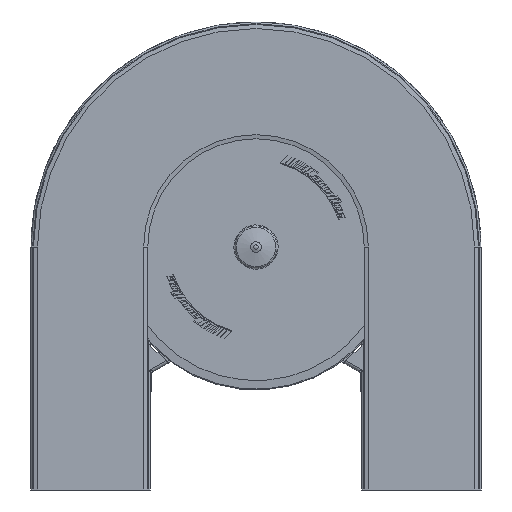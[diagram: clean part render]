
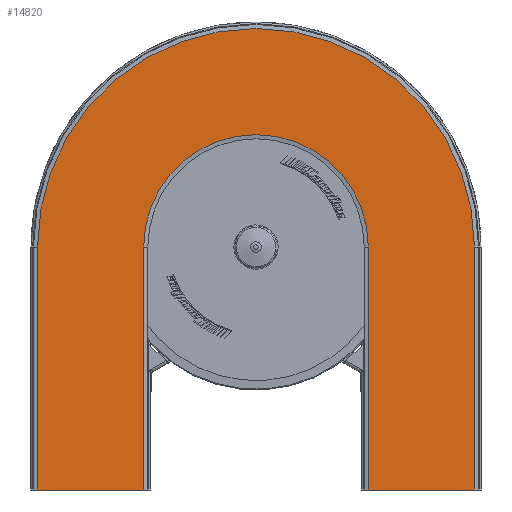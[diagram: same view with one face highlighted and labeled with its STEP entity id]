
A CAD part, front view. The second image highlights one B-rep face of the part: STEP entity #14820.
In plain terms, the highlighted planar face has unit normal (0, -1, 0).
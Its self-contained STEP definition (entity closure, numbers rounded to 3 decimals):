
#1121=PLANE('',#16205);
#2033=FACE_OUTER_BOUND('',#2983,.T.);
#2983=EDGE_LOOP('',(#13047,#13048,#13049,#13050,#13051,#13052,#13053,#13054));
#4127=LINE('',#30756,#5459);
#4131=LINE('',#30763,#5463);
#4142=LINE('',#30796,#5474);
#4143=LINE('',#30798,#5475);
#4144=LINE('',#30799,#5476);
#4145=LINE('',#30800,#5477);
#5459=VECTOR('',#19410,10.);
#5463=VECTOR('',#19416,10.);
#5474=VECTOR('',#19447,10.);
#5475=VECTOR('',#19448,10.);
#5476=VECTOR('',#19449,10.);
#5477=VECTOR('',#19450,10.);
#6227=CIRCLE('',#16204,137.5);
#6228=CIRCLE('',#16206,267.5);
#7348=VERTEX_POINT('',#30753);
#7349=VERTEX_POINT('',#30755);
#7351=VERTEX_POINT('',#30761);
#7360=VERTEX_POINT('',#30787);
#7361=VERTEX_POINT('',#30789);
#7362=VERTEX_POINT('',#30793);
#7363=VERTEX_POINT('',#30795);
#7364=VERTEX_POINT('',#30797);
#9297=EDGE_CURVE('',#7349,#7348,#4127,.T.);
#9301=EDGE_CURVE('',#7351,#7348,#4131,.T.);
#9314=EDGE_CURVE('',#7361,#7360,#6227,.T.);
#9316=EDGE_CURVE('',#7362,#7351,#6228,.T.);
#9317=EDGE_CURVE('',#7363,#7362,#4142,.T.);
#9318=EDGE_CURVE('',#7363,#7364,#4143,.T.);
#9319=EDGE_CURVE('',#7364,#7361,#4144,.T.);
#9320=EDGE_CURVE('',#7360,#7349,#4145,.T.);
#13047=ORIENTED_EDGE('',*,*,#9297,.T.);
#13048=ORIENTED_EDGE('',*,*,#9301,.F.);
#13049=ORIENTED_EDGE('',*,*,#9316,.F.);
#13050=ORIENTED_EDGE('',*,*,#9317,.F.);
#13051=ORIENTED_EDGE('',*,*,#9318,.T.);
#13052=ORIENTED_EDGE('',*,*,#9319,.T.);
#13053=ORIENTED_EDGE('',*,*,#9314,.T.);
#13054=ORIENTED_EDGE('',*,*,#9320,.T.);
#14820=ADVANCED_FACE('',(#2033),#1121,.T.);
#16204=AXIS2_PLACEMENT_3D('',#30790,#19440,#19441);
#16205=AXIS2_PLACEMENT_3D('',#30792,#19443,#19444);
#16206=AXIS2_PLACEMENT_3D('',#30794,#19445,#19446);
#19410=DIRECTION('',(1.,0.,0.));
#19416=DIRECTION('',(0.,0.,-1.));
#19440=DIRECTION('center_axis',(0.,1.,0.));
#19441=DIRECTION('ref_axis',(-1.,0.,0.));
#19443=DIRECTION('center_axis',(0.,-1.,0.));
#19444=DIRECTION('ref_axis',(0.,0.,
1.));
#19445=DIRECTION('center_axis',(0.,1.,0.));
#19446=DIRECTION('ref_axis',(-1.,0.,0.));
#19447=DIRECTION('',(0.,0.,1.));
#19448=DIRECTION('',(1.,0.,0.));
#19449=DIRECTION('',(0.,0.,1.));
#19450=DIRECTION('',(0.,0.,-1.));
#30753=CARTESIAN_POINT('',(509.001,-72.,0.));
#30755=CARTESIAN_POINT('',(379.001,-72.,0.));
#30756=CARTESIAN_POINT('',(413.001,-72.,0.));
#30761=CARTESIAN_POINT('',(509.001,-72.,297.5));
#30763=CARTESIAN_POINT('',(509.001,-72.,1231.173));
#30787=CARTESIAN_POINT('',(379.001,-72.,297.5));
#30789=CARTESIAN_POINT('',(104.001,-72.,297.5));
#30790=CARTESIAN_POINT('Origin',(241.501,-72.,297.5));
#30792=CARTESIAN_POINT('Origin',(379.001,-72.,1231.173));
#30793=CARTESIAN_POINT('',(-25.999,-72.,297.5));
#30794=CARTESIAN_POINT('Origin',(241.501,-72.,297.5));
#30795=CARTESIAN_POINT('',(-25.999,-72.,0.));
#30796=CARTESIAN_POINT('',(-25.999,-72.,0.));
#30797=CARTESIAN_POINT('',(104.001,-72.,0.));
#30798=CARTESIAN_POINT('',(-25.999,-72.,0.));
#30799=CARTESIAN_POINT('',(104.001,-72.,0.));
#30800=CARTESIAN_POINT('',(379.001,-72.,1231.173));
